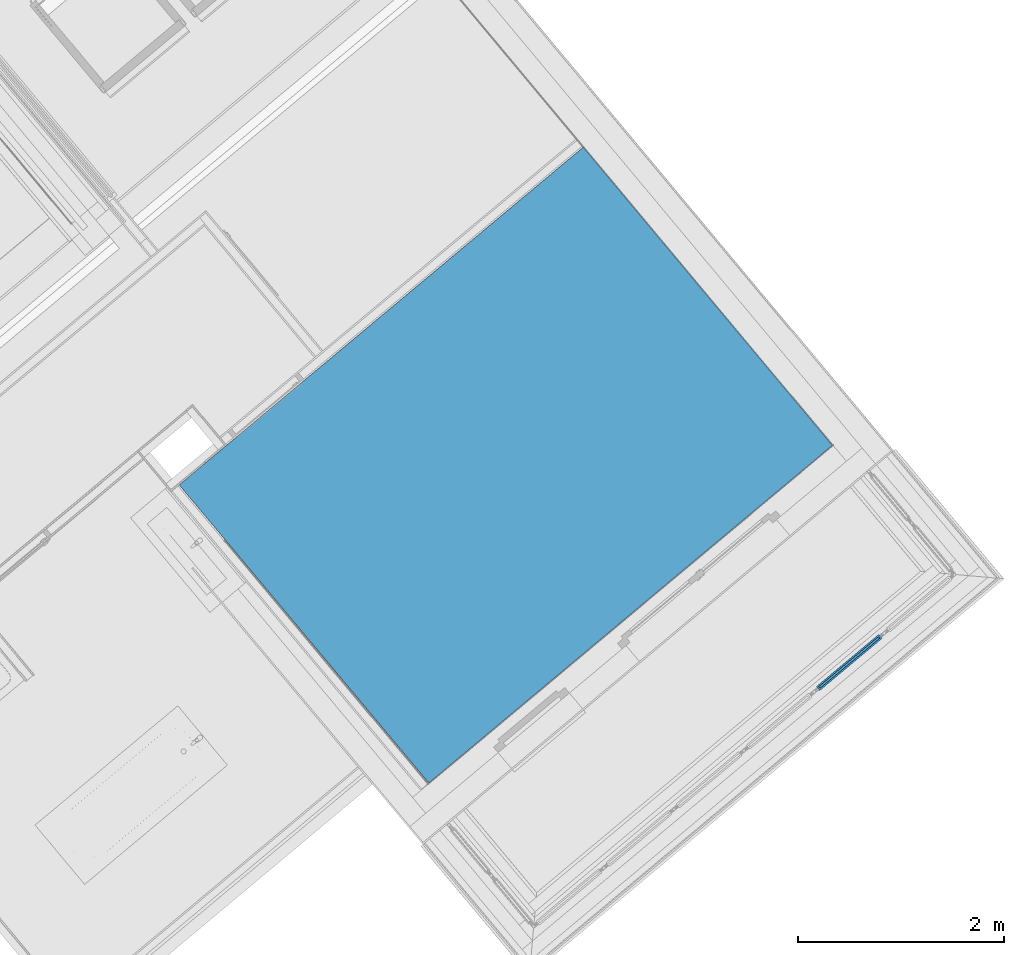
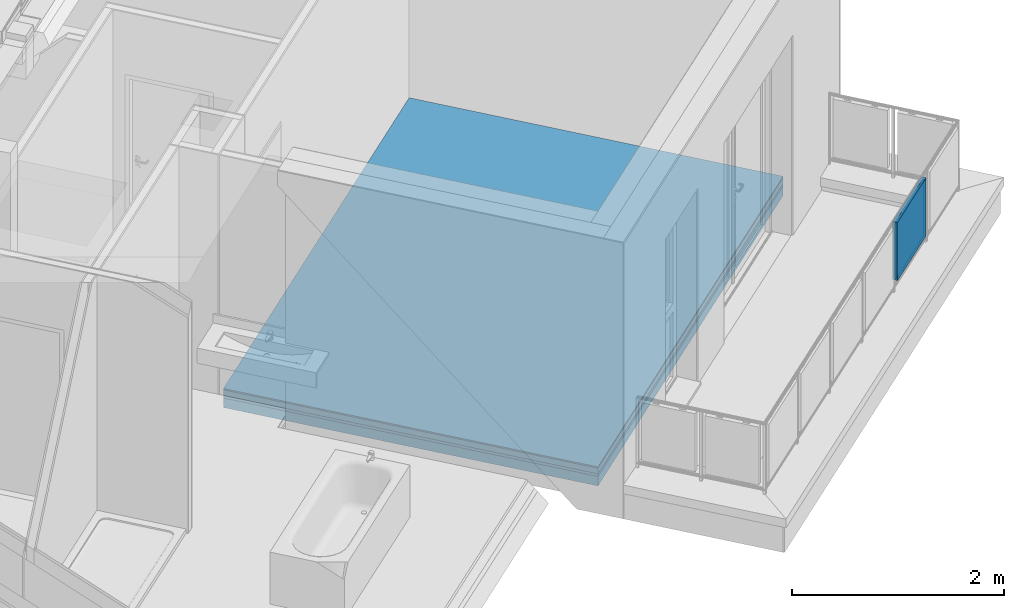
# One storey, part 36 of 50: 6 building element parts, 2 elements without a shape of their own.
"""IFC4 building model written with IfcOpenShell, lengths in metres."""

from ifc_helpers import new_model, entity, si_unit, converted_unit, derived_unit, direction, frame, origin_with_axes, place, context, subcontext, project, spatial, polygons, material, type_object, element, aggregate, save


model = new_model("IFC4")

# Units and contexts
model_context = context("Model", 3, precision=1e-05, world=origin_with_axes(), true_north=direction((0.0, 1.0)))
body_context = subcontext(model_context, "Body", "Model", "MODEL_VIEW")
ifc_project = project(units=[si_unit("LENGTHUNIT", "METRE"), si_unit("AREAUNIT", "SQUARE_METRE"), si_unit("VOLUMEUNIT", "CUBIC_METRE"), converted_unit("PLANEANGLEUNIT", "DEGREE", entity("IfcPlaneAngleMeasure", 0.0174532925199), si_unit("PLANEANGLEUNIT", "RADIAN"), dimensions=[0, 0, 0, 0, 0, 0, 0]), converted_unit("TIMEUNIT", "Year", entity("IfcTimeMeasure", 31556926.0), si_unit("TIMEUNIT", "SECOND"), dimensions=[0, 0, 1, 0, 0, 0, 0]), si_unit("MASSUNIT", "GRAM", prefix="KILO"), si_unit("THERMODYNAMICTEMPERATUREUNIT", "DEGREE_CELSIUS"), si_unit("LUMINOUSINTENSITYUNIT", "LUMEN"), si_unit("ENERGYUNIT", "JOULE", prefix="MEGA"), derived_unit("THERMALCONDUCTANCEUNIT", [(si_unit("POWERUNIT", "WATT"), 1), (si_unit("LENGTHUNIT", "METRE"), -1), (si_unit("THERMODYNAMICTEMPERATUREUNIT", "KELVIN"), -1)]), derived_unit("SPECIFICHEATCAPACITYUNIT", [(si_unit("ENERGYUNIT", "JOULE"), 1), (si_unit("MASSUNIT", "GRAM", prefix="KILO"), -1), (si_unit("THERMODYNAMICTEMPERATUREUNIT", "KELVIN"), -1)]), derived_unit("MASSDENSITYUNIT", [(si_unit("MASSUNIT", "GRAM", prefix="KILO"), 1), (si_unit("VOLUMEUNIT", "CUBIC_METRE"), -1)])], contexts=[model_context])

# Site, building, storey
site_placement = place(None, frame((-0.00153261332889, -0.00661245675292, 0.0), z_axis=(0.0, 0.0, 1.0), x_axis=(1.0, 0.0, 0.0)))
site = spatial("IfcSite", under=ifc_project, at=site_placement, Name="Gelände", CompositionType="ELEMENT")
building_placement = place(site_placement, origin_with_axes())
building = spatial("IfcBuilding", under=site, at=building_placement, Name="Gebäude", CompositionType="ELEMENT")
storey_placement = place(building_placement, frame((0.0, 0.0, 8.66), z_axis=(0.0, 0.0, 1.0), x_axis=(1.0, 0.0, 0.0)))
storey = spatial("IfcBuildingStorey", under=building, at=storey_placement, Name="DG2", CompositionType="ELEMENT", Elevation=8.66)

# Covering, building element parts
covering_type = type_object("IfcCoveringType", Name="DE 01 Decke Wohnung/Wohnung Parkett 220", PredefinedType="NOTDEFINED")
covering_placement = place(storey_placement, frame((5.44449478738, 21.1853017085, 0.22), z_axis=(0.0, 0.0, 1.0), x_axis=(1.0, 0.0, 0.0)))
covering = element("IfcCovering", 1, at=covering_placement, inside=storey, type_object=covering_type, Name="Decke-009", PredefinedType="NOTDEFINED")
ifc_material_1 = material(Name="Parkett")
building_element_part_1_placement = place(covering_placement, origin_with_axes())
building_element_part_1 = element("IfcBuildingElementPart", 2, at=building_element_part_1_placement, material=ifc_material_1, Name="Parkett", PredefinedType="NOTDEFINED", context=body_context, shape_type="Tessellation", body=[
    polygons([(0.0, 0.0, -0.015), (2.41913475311, -2.8883484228, -0.015), (2.41913475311, -2.8883484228, 0.0), (0.0, 0.0, 0.0), (3.91495482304, 3.27132918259, -0.015), (6.32864221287, 0.382754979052, -0.015), (6.32864221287, 0.382754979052, 0.0), (3.91495482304, 3.27132918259, 0.0)], [[[1, 2, 3, 4]], [[2, 1, 5, 6]], [[2, 6, 7, 3]], [[8, 4, 3, 7]], [[5, 1, 4, 8]], [[6, 5, 8, 7]]], closed=True),
])
ifc_material_2 = material(Name="Estrich")
building_element_part_2_placement = place(covering_placement, origin_with_axes())
building_element_part_2 = element("IfcBuildingElementPart", 3, at=building_element_part_2_placement, material=ifc_material_2, Name="Estrich", PredefinedType="NOTDEFINED", context=body_context, shape_type="Tessellation", body=[
    polygons([(0.0, 0.0, -0.08), (2.41913475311, -2.8883484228, -0.08), (2.41913475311, -2.8883484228, -0.015), (0.0, 0.0, -0.015), (3.91495482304, 3.27132918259, -0.08), (6.32864221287, 0.382754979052, -0.08), (6.32864221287, 0.382754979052, -0.015), (3.91495482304, 3.27132918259, -0.015)], [[[1, 2, 3, 4]], [[2, 1, 5, 6]], [[2, 6, 7, 3]], [[8, 4, 3, 7]], [[5, 1, 4, 8]], [[6, 5, 8, 7]]], closed=True),
])
ifc_material_3 = material(Name="Trittschalldämmung")
building_element_part_3_placement = place(covering_placement, origin_with_axes())
building_element_part_3 = element("IfcBuildingElementPart", 4, at=building_element_part_3_placement, material=ifc_material_3, Name="Trittschalldämmung", PredefinedType="NOTDEFINED", context=body_context, shape_type="Tessellation", body=[
    polygons([(0.0, 0.0, -0.11), (2.41913475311, -2.8883484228, -0.11), (2.41913475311, -2.8883484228, -0.08), (0.0, 0.0, -0.08), (3.91495482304, 3.27132918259, -0.11), (6.32864221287, 0.382754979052, -0.11), (6.32864221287, 0.382754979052, -0.08), (3.91495482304, 3.27132918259, -0.08)], [[[1, 2, 3, 4]], [[2, 1, 5, 6]], [[2, 6, 7, 3]], [[8, 4, 3, 7]], [[5, 1, 4, 8]], [[6, 5, 8, 7]]], closed=True),
])
ifc_material_4 = material(Name="Schüttung")
building_element_part_4_placement = place(covering_placement, origin_with_axes())
building_element_part_4 = element("IfcBuildingElementPart", 5, at=building_element_part_4_placement, material=ifc_material_4, Name="Schüttung", PredefinedType="NOTDEFINED", context=body_context, shape_type="Tessellation", body=[
    polygons([(0.0, 0.0, -0.11), (0.0, 0.0, -0.22), (2.41913475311, -2.8883484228, -0.22), (2.41913475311, -2.8883484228, -0.11), (3.91495482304, 3.27132918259, -0.11), (3.91495482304, 3.27132918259, -0.22), (6.32864221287, 0.382754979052, -0.22), (6.32864221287, 0.382754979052, -0.11)], [[[1, 2, 3, 4]], [[5, 6, 2, 1]], [[3, 2, 6, 7]], [[4, 3, 7, 8]], [[5, 1, 4, 8]], [[8, 7, 6, 5]]], closed=True),
])
aggregate(covering, [building_element_part_1, building_element_part_2, building_element_part_3, building_element_part_4])

# Space
space_placement = place(storey_placement, frame((8.90864671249, 17.2360299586, 0.22), z_axis=(0.0, 0.0, 1.0), x_axis=(0.766948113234, 0.641709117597, 0.0)))
space = spatial("IfcSpace", under=storey, at=space_placement, CompositionType="ELEMENT", PredefinedType="NOTDEFINED")

# Railing, building element parts
railing_type = type_object("IfcRailingType", Name="Geländerart", PredefinedType="NOTDEFINED")
railing_placement = place(space_placement, frame((-0.182063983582, 1.04564583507, 0.16), z_axis=(0.0, 0.0, 1.0), x_axis=(0.766948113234, -0.641709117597, 0.0)))
railing = element("IfcRailing", 6, at=railing_placement, inside=space, type_object=railing_type, Name="Geländer - 001", PredefinedType="NOTDEFINED")
ifc_material_5 = material(Name="Profilit")
building_element_part_5_placement = place(railing_placement, origin_with_axes())
building_element_part_5 = element("IfcBuildingElementPart", 7, at=building_element_part_5_placement, material=ifc_material_5, Name="Profilit", PredefinedType="NOTDEFINED", context=body_context, shape_type="Tessellation", body=[
    polygons([(4.12099781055, 1.79363218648, 0.135), (3.54166611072, 1.30899080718, 0.135), (3.54166611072, 1.30899080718, 0.775), (4.12099781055, 1.79363218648, 0.775), (3.55449891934, 1.29365069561, 0.135), (4.13383061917, 1.77829207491, 0.135), (3.55449891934, 1.29365069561, 0.775), (4.13383061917, 1.77829207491, 0.775)], [[[1, 2, 3, 4]], [[5, 2, 1, 6]], [[7, 3, 2, 5]], [[4, 3, 7, 8]], [[1, 4, 8, 6]], [[7, 5, 6, 8]]], closed=True),
])
ifc_material_6 = material(Name="Aluminium")
building_element_part_6_placement = place(railing_placement, origin_with_axes())
building_element_part_6 = element("IfcBuildingElementPart", 8, at=building_element_part_6_placement, material=ifc_material_6, Name="Aluminium", PredefinedType="NOTDEFINED", context=body_context, shape_type="Tessellation", body=[
    polygons([(3.61167388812, 1.35777770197, 0.12), (3.66536427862, 1.40269253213, 0.12), (3.66536427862, 1.40269253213, 0.095), (3.61167388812, 1.35777770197, 0.095), (3.61488209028, 1.35394267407, 0.12), (3.66857248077, 1.39885750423, 0.12), (3.66857248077, 1.39885750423, 0.095), (3.61488209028, 1.35394267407, 0.095)], [[[1, 2, 3, 4]], [[5, 6, 2, 1]], [[2, 6, 7, 3]], [[4, 3, 7, 8]], [[1, 4, 8, 5]], [[8, 7, 6, 5]]], closed=True),
    polygons([(4.00692424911, 1.68842537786, 0.12), (4.06061463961, 1.73334020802, 0.12), (4.06061463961, 1.73334020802, 0.095), (4.00692424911, 1.68842537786, 0.095), (4.01013245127, 1.68459034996, 0.12), (4.06382284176, 1.72950518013, 0.12), (4.06382284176, 1.72950518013, 0.095), (4.01013245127, 1.68459034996, 0.095)], [[[1, 2, 3, 4]], [[5, 6, 2, 1]], [[2, 6, 7, 3]], [[4, 3, 7, 8]], [[1, 4, 8, 5]], [[8, 7, 6, 5]]], closed=True),
    polygons([(4.06061463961, 1.73334020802, 0.79), (4.00692424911, 1.68842537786, 0.79), (4.00692424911, 1.68842537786, 0.795), (4.06061463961, 1.73334020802, 0.795), (4.06382284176, 1.72950518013, 0.79), (4.01013245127, 1.68459034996, 0.79), (4.01013245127, 1.68459034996, 0.795), (4.06382284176, 1.72950518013, 0.795)], [[[1, 2, 3, 4]], [[5, 6, 2, 1]], [[2, 6, 7, 3]], [[4, 3, 7, 8]], [[1, 4, 8, 5]], [[8, 7, 6, 5]]], closed=True),
    polygons([(3.66536427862, 1.40269253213, 0.79), (3.61167388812, 1.35777770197, 0.79), (3.61167388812, 1.35777770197, 0.795), (3.66536427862, 1.40269253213, 0.795), (3.66857248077, 1.39885750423, 0.79), (3.61488209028, 1.35394267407, 0.79), (3.61488209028, 1.35394267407, 0.795), (3.66857248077, 1.39885750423, 0.795)], [[[1, 2, 3, 4]], [[5, 6, 2, 1]], [[2, 6, 7, 3]], [[4, 3, 7, 8]], [[1, 4, 8, 5]], [[8, 7, 6, 5]]], closed=True),
    polygons([(3.55261844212, 1.27252100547, 0.12), (3.52053642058, 1.31087128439, 0.12), (4.12287828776, 1.81476187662, 0.12), (4.15496030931, 1.7764115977, 0.12), (3.56795855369, 1.28535381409, 0.14), (3.55833394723, 1.29685889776, 0.14), (3.55449891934, 1.29365069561, 0.135), (3.54166611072, 1.30899080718, 0.135), (3.54550113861, 1.31219900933, 0.14), (3.53587653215, 1.32370409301, 0.14), (4.10753817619, 1.801929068, 0.14), (4.10753817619, 1.801929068, 0.77), (3.53587653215, 1.32370409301, 0.77), (3.53587653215, 1.32370409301, 0.14), (3.52053642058, 1.31087128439, 0.12), (3.52053642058, 1.31087128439, 0.79), (4.12287828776, 1.81476187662, 0.79), (4.15496030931, 1.7764115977, 0.79), (3.55261844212, 1.27252100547, 0.79), (3.55261844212, 1.27252100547, 0.12), (3.56795855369, 1.28535381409, 0.14), (3.56795855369, 1.28535381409, 0.77), (4.13962019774, 1.76357878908, 0.77), (4.13962019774, 1.76357878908, 0.14), (4.12999559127, 1.77508387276, 0.14), (4.12999559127, 1.77508387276, 0.77), (3.55833394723, 1.29685889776, 0.77), (3.55833394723, 1.29685889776, 0.14), (3.55449891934, 1.29365069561, 0.135), (3.55449891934, 1.29365069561, 0.775), (4.13383061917, 1.77829207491, 0.775), (4.13383061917, 1.77829207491, 0.135), (4.12099781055, 1.79363218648, 0.135), (4.12099781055, 1.79363218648, 0.775), (3.54166611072, 1.30899080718, 0.775), (3.54166611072, 1.30899080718, 0.135), (3.54550113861, 1.31219900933, 0.14), (3.54550113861, 1.31219900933, 0.77), (4.11716278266, 1.79042398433, 0.77), (4.11716278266, 1.79042398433, 0.14)], [[[1, 2, 3, 4]], [[1, 5, 6, 7, 8, 9, 10, 2]], [[2, 10, 11, 12, 13, 14, 15, 16, 17, 3]], [[4, 3, 17, 18]], [[5, 1, 4, 18, 19, 20, 21, 22, 23, 24]], [[6, 5, 24, 25]], [[7, 6, 25, 26, 27, 28, 29, 30, 31, 32]], [[8, 7, 32, 33]], [[9, 8, 33, 34, 35, 36, 37, 38, 39, 40]], [[10, 9, 40, 11]], [[11, 40, 39, 12]], [[12, 39, 38, 13]], [[13, 38, 37, 14]], [[20, 15, 14, 37, 36, 29, 28, 21]], [[19, 16, 15, 20]], [[18, 17, 16, 19]], [[27, 22, 21, 28]], [[26, 23, 22, 27]], [[25, 24, 23, 26]], [[35, 30, 29, 36]], [[34, 31, 30, 35]], [[33, 32, 31, 34]]], closed=True),
])
aggregate(railing, [building_element_part_5, building_element_part_6])

save(model, "model.ifc")
